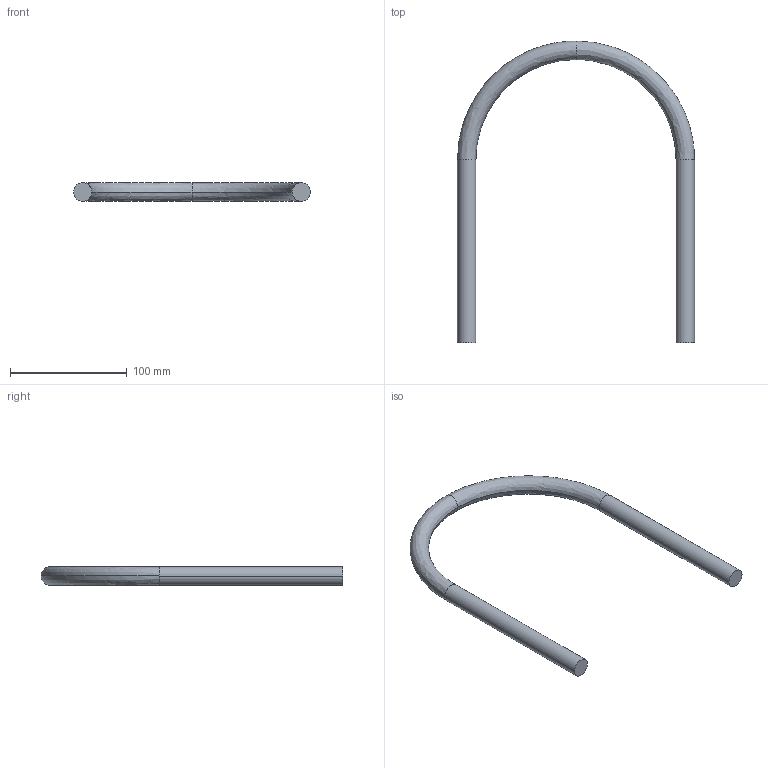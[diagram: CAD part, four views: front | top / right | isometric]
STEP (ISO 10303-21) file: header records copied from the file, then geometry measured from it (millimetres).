
FILE_DESCRIPTION(('TurboCAD Mac Pro'),'Build 980');
FILE_NAME('FUB-600.stp',' ',(''),(''),'ACIS Interop','IMSI','TurboCAD Mac Pro BY IMSI, INCORPORATED');
FILE_SCHEMA(('automotive_design'));
Length unit declared in the file: inch
Products named in the file (2): 1; 2
Bounding box: 203.2 x 258.76 x 15.88 mm (x, y, z)
Volume: 120363.6 mm3; surface area: 30737.3 mm2
Topology: 1 solids, 1 shells, 10 faces, 18 edges, 10 vertices
Faces by surface type: bspline 4, cylinder 4, plane 2
Entity records: 676 total; most frequent: CARTESIAN_POINT 330, DIRECTION 42, ORIENTED_EDGE 36, AXIS2_PLACEMENT_3D 18, EDGE_CURVE 18, STYLED_ITEM 15, PRESENTATION_STYLE_ASSIGNMENT 15, COLOUR_RGB 15
